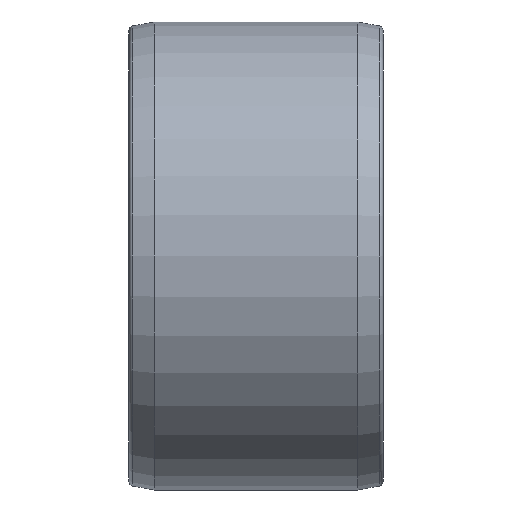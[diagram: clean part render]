
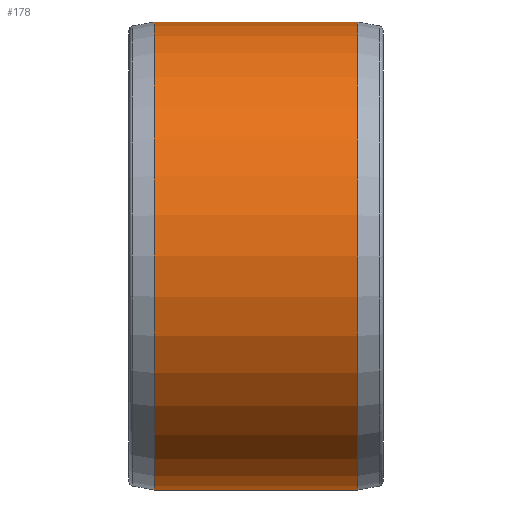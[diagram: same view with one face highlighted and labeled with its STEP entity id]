
A CAD part, front view. The second image highlights one B-rep face of the part: STEP entity #178.
In plain terms, the highlighted cylindrical face has radius 70 mm (diameter 140 mm), a full revolution.
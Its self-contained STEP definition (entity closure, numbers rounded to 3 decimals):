
#20=CYLINDRICAL_SURFACE('',#210,70.);
#38=FACE_BOUND('',#82,.T.);
#53=FACE_OUTER_BOUND('',#81,.T.);
#81=EDGE_LOOP('',(#156));
#82=EDGE_LOOP('',(#157));
#92=CIRCLE('',#196,70.);
#98=CIRCLE('',#207,70.);
#107=VERTEX_POINT('',#296);
#113=VERTEX_POINT('',#313);
#122=EDGE_CURVE('',#107,#107,#92,.T.);
#128=EDGE_CURVE('',#113,#113,#98,.T.);
#156=ORIENTED_EDGE('',*,*,#122,.F.);
#157=ORIENTED_EDGE('',*,*,#128,.F.);
#178=ADVANCED_FACE('',(#53,#38),#20,.T.);
#196=AXIS2_PLACEMENT_3D('',#297,#242,#243);
#207=AXIS2_PLACEMENT_3D('',#314,#264,#265);
#210=AXIS2_PLACEMENT_3D('',#318,#270,#271);
#242=DIRECTION('center_axis',(1.,0.,0.));
#243=DIRECTION('ref_axis',(0.,0.,-1.));
#264=DIRECTION('center_axis',(-1.,0.,0.));
#265=DIRECTION('ref_axis',(0.,-1.,0.));
#270=DIRECTION('center_axis',(1.,0.,0.));
#271=DIRECTION('ref_axis',(0.,1.,0.));
#296=CARTESIAN_POINT('',(-7.6,70.,0.));
#297=CARTESIAN_POINT('Origin',(-7.6,0.,0.));
#313=CARTESIAN_POINT('',(-68.4,70.,0.));
#314=CARTESIAN_POINT('Origin',(-68.4,0.,0.));
#318=CARTESIAN_POINT('Origin',(-41.8,0.,0.));
